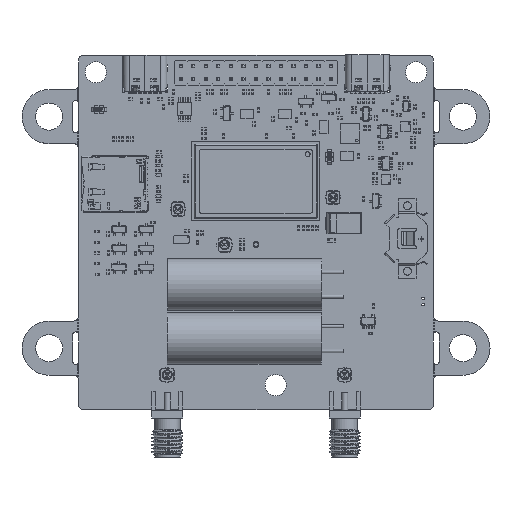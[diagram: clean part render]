
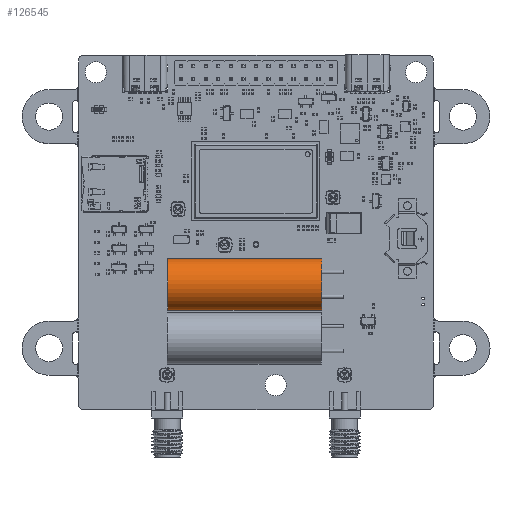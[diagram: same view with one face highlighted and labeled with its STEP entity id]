
A CAD part, top view. The second image highlights one B-rep face of the part: STEP entity #126545.
In plain terms, the highlighted cylindrical face has radius 5.245 mm (diameter 10.49 mm), a full revolution.
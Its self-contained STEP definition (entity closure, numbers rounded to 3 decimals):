
#126545 = ADVANCED_FACE('',(#126546),#126572,.T.);
#126546 = FACE_BOUND('',#126547,.T.);
#126547 = EDGE_LOOP('',(#126548,#126557,#126564,#126571));
#126548 = ORIENTED_EDGE('',*,*,#126549,.F.);
#126549 = EDGE_CURVE('',#126550,#126550,#126552,.T.);
#126550 = VERTEX_POINT('',#126551);
#126551 = CARTESIAN_POINT('',(-2.745,0.,31.242));
#126552 = CIRCLE('',#126553,5.245);
#126553 = AXIS2_PLACEMENT_3D('',#126554,#126555,#126556);
#126554 = CARTESIAN_POINT('',(2.5,0.,31.242));
#126555 = DIRECTION('',(0.,0.,1.));
#126556 = DIRECTION('',(1.,0.,-0.));
#126557 = ORIENTED_EDGE('',*,*,#126558,.F.);
#126558 = EDGE_CURVE('',#126559,#126550,#126561,.T.);
#126559 = VERTEX_POINT('',#126560);
#126560 = CARTESIAN_POINT('',(-2.745,0.,0.));
#126561 = B_SPLINE_CURVE_WITH_KNOTS('',1,(#126562,#126563),
  .UNSPECIFIED.,.F.,.F.,(2,2),(0.,31.242),.PIECEWISE_BEZIER_KNOTS.);
#126562 = CARTESIAN_POINT('',(-2.745,0.,0.));
#126563 = CARTESIAN_POINT('',(-2.745,0.,31.242));
#126564 = ORIENTED_EDGE('',*,*,#126565,.F.);
#126565 = EDGE_CURVE('',#126559,#126559,#126566,.T.);
#126566 = CIRCLE('',#126567,5.245);
#126567 = AXIS2_PLACEMENT_3D('',#126568,#126569,#126570);
#126568 = CARTESIAN_POINT('',(2.5,0.,0.));
#126569 = DIRECTION('',(0.,0.,-1.));
#126570 = DIRECTION('',(1.,0.,0.));
#126571 = ORIENTED_EDGE('',*,*,#126558,.T.);
#126572 = CYLINDRICAL_SURFACE('',#126573,5.245);
#126573 = AXIS2_PLACEMENT_3D('',#126574,#126575,#126576);
#126574 = CARTESIAN_POINT('',(2.5,0.,0.));
#126575 = DIRECTION('',(0.,0.,1.));
#126576 = DIRECTION('',(1.,0.,-0.));
